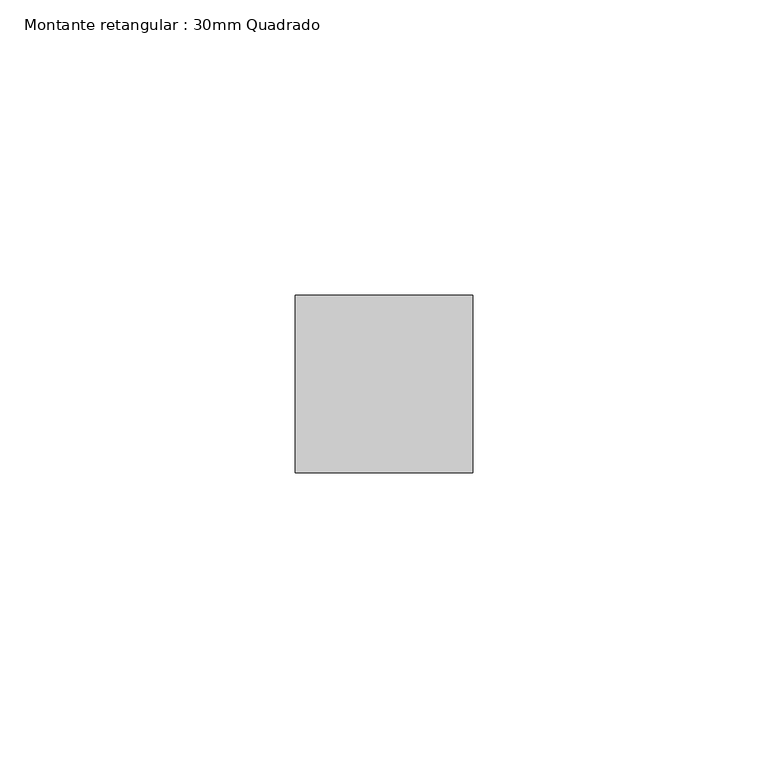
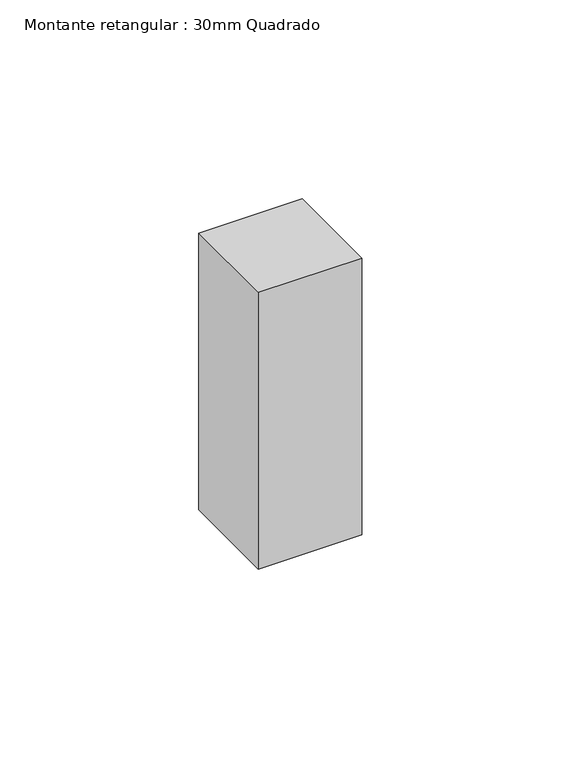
"""IFC4 building model written with IfcOpenShell, lengths in millimetres: member geometry, Montante retangular : 30mm Quadrado."""

import ifcopenshell
import ifcopenshell.guid

model = None  # the IFC model being written
_history = None  # IfcOwnerHistory: only IFC2X3 demands one
_inside = {}  # id of a spatial element -> (the spatial element, [elements in it])
_under = {}  # id of a project, library or spatial element -> (it, [spatial elements below it])
_declared = {}  # id of a project -> (the project, [libraries it declares])
_typed = {}  # id of a type object -> (the type object, [elements of that type])
_made_of = {}  # id of a material, layer set ... -> (it, [elements and type objects made of it])


def new_model(schema):
    """Start an empty IFC model of exactly this schema.

    Asked for "IFC4X3", IfcOpenShell would pick the latest addendum, in which some entities
    have other attributes; the version numbers below select the first issue.
    IFC2X3 requires an IfcOwnerHistory on every rooted entity: one is made here for all.
    """
    global model, _history
    if schema == "IFC4X3":
        model = ifcopenshell.file(schema_version=(4, 3, 0, 0))
    else:
        model = ifcopenshell.file(schema=schema)
    _inside.clear()
    _under.clear()
    _declared.clear()
    _typed.clear()
    _made_of.clear()
    _history = None
    if model.schema == "IFC2X3":
        org = make("IfcOrganization", Name="unknown")
        user = make(
            "IfcPersonAndOrganization",
            ThePerson=make("IfcPerson", FamilyName="unknown"),
            TheOrganization=org,
        )
        app = make(
            "IfcApplication",
            ApplicationDeveloper=org,
            Version="unknown",
            ApplicationFullName="unknown",
            ApplicationIdentifier="unknown",
        )
        _history = make(
            "IfcOwnerHistory",
            OwningUser=user,
            OwningApplication=app,
            ChangeAction="ADDED",
            CreationDate=0,
        )
    return model


def make(cls, **values):
    """One entity of the class cls with the attributes given. An attribute that is None is left unset."""
    return model.create_entity(
        cls, **{name: value for name, value in values.items() if value is not None}
    )


def rooted(cls, **values):
    """An entity with a GlobalId (a new one), such as an element, a storey or a relation."""
    return make(cls, GlobalId=ifcopenshell.guid.new(), OwnerHistory=_history, **values)


def si_unit(unit_type, name, prefix=None):
    """IfcSIUnit, for example si_unit("LENGTHUNIT", "METRE", prefix="MILLI")."""
    return make("IfcSIUnit", UnitType=unit_type, Prefix=prefix, Name=name)


def assignment(units):
    """IfcUnitAssignment: the units of a project."""
    return None if units is None else make("IfcUnitAssignment", Units=units)


def point(xyz):
    """IfcCartesianPoint."""
    return None if xyz is None else make("IfcCartesianPoint", Coordinates=xyz)


def direction(xyz):
    """IfcDirection."""
    return None if xyz is None else make("IfcDirection", DirectionRatios=xyz)


def frame(location, z_axis=None, x_axis=None):
    """IfcAxis2Placement3D, a coordinate frame: its origin and axes. An axis left out is left unset."""
    return make(
        "IfcAxis2Placement3D",
        Location=point(location),
        Axis=direction(z_axis),
        RefDirection=direction(x_axis),
    )


def origin():
    """The frame at (0, 0, 0) with its axes left unset."""
    return frame((0.0, 0.0, 0.0))


def place(relative_to, where):
    """IfcLocalPlacement: puts the frame where relative to a parent placement (None: the world)."""
    return make(
        "IfcLocalPlacement", PlacementRelTo=relative_to, RelativePlacement=where
    )


def context(
    kind, dimensions, precision=None, world=None, true_north=None, identifier=None
):
    """IfcGeometricRepresentationContext, for example the 3D "Model" context."""
    return make(
        "IfcGeometricRepresentationContext",
        ContextIdentifier=identifier,
        ContextType=kind,
        CoordinateSpaceDimension=dimensions,
        Precision=precision,
        WorldCoordinateSystem=world,
        TrueNorth=true_north,
    )


def project(units=None, contexts=None):
    """IfcProject with its units and contexts."""
    return rooted(
        "IfcProject",
        Name="project",
        RepresentationContexts=contexts,
        UnitsInContext=assignment(units),
    )


def spatial(cls, under=None, at=None, **own):
    """A site, building, storey or space (cls), placed at a placement, below another one or the project."""
    s = rooted(cls, ObjectPlacement=at, **own)
    if under is not None:
        _under.setdefault(under.id(), (under, []))[1].append(s)
    return s


def polyline(points):
    """IfcPolyline through the points."""
    return make("IfcPolyline", Points=[point(p) for p in points])


def outline(outer, holes=None, kind="AREA"):
    """IfcArbitraryClosedProfileDef: a profile drawn as a closed curve; with holes, ...WithVoids."""
    if holes is None:
        return make("IfcArbitraryClosedProfileDef", ProfileType=kind, OuterCurve=outer)
    return make(
        "IfcArbitraryProfileDefWithVoids",
        ProfileType=kind,
        OuterCurve=outer,
        InnerCurves=holes,
    )


def extrude(swept, where, along, depth):
    """IfcExtrudedAreaSolid: the profile swept, set in the frame where, extruded along a direction by depth."""
    return make(
        "IfcExtrudedAreaSolid",
        SweptArea=swept,
        Position=where,
        ExtrudedDirection=direction(along),
        Depth=depth,
    )


def shape(context_of_items, identifier, shape_type, items):
    """IfcShapeRepresentation: the items that make up one representation, for example the "Body"."""
    return make(
        "IfcShapeRepresentation",
        ContextOfItems=context_of_items,
        RepresentationIdentifier=identifier,
        RepresentationType=shape_type,
        Items=items,
    )


def source(mapping_origin, context_of_items, identifier, shape_type, items):
    """IfcRepresentationMap: a shape defined once, which mapped items show again and again."""
    return make(
        "IfcRepresentationMap",
        MappingOrigin=mapping_origin,
        MappedRepresentation=shape(context_of_items, identifier, shape_type, items),
    )


def transform(
    local_origin,
    x_axis=None,
    y_axis=None,
    z_axis=None,
    scale=None,
    scale2=None,
    scale3=None,
    uniform=True,
):
    """IfcCartesianTransformationOperator3D, or its non-uniform kind. x_axis, y_axis, z_axis: its Axis1, 2, 3."""
    if uniform:
        return make(
            "IfcCartesianTransformationOperator3D",
            Axis1=direction(x_axis),
            Axis2=direction(y_axis),
            LocalOrigin=point(local_origin),
            Scale=scale,
            Axis3=direction(z_axis),
        )
    return make(
        "IfcCartesianTransformationOperator3DnonUniform",
        Axis1=direction(x_axis),
        Axis2=direction(y_axis),
        LocalOrigin=point(local_origin),
        Scale=scale,
        Axis3=direction(z_axis),
        Scale2=scale2,
        Scale3=scale3,
    )


def mapped(mapping_source, mapping_target):
    """IfcMappedItem: shows the shape of a source again, moved by a transform."""
    return make(
        "IfcMappedItem", MappingSource=mapping_source, MappingTarget=mapping_target
    )


def made_of(thing, what):
    """Note that an element or type object is made of a material, layer set ...; save() writes the relation."""
    if what is not None:
        _made_of.setdefault(what.id(), (what, []))[1].append(thing)
    return thing


def element(
    cls,
    number,
    at=None,
    inside=None,
    cuts=None,
    type_object=None,
    material=None,
    context=None,
    identifier="Body",
    shape_type=None,
    held_by="IfcProductDefinitionShape",
    body=None,
    shapes=None,
    **own,
):
    """One element of the class cls, such as IfcWall. Its Tag is "e" and its number.

    at: its placement. inside: the storey or other place that contains it. cuts: it is an
    opening in that element (IfcRelVoidsElement). A single representation is given by context,
    identifier, shape_type and body (its items); several are given by shapes. held_by: the class
    of the entity that holds the representations. save() writes the other relations.
    """
    e = rooted(cls, Tag="e%d" % number, ObjectPlacement=at, **own)
    if body is not None:
        shapes = [shape(context, identifier, shape_type, body)]
    if shapes is not None:
        e.Representation = make(held_by, Representations=shapes)
    if inside is not None:
        _inside.setdefault(inside.id(), (inside, []))[1].append(e)
    if cuts is not None:
        rooted(
            "IfcRelVoidsElement", RelatingBuildingElement=cuts, RelatedOpeningElement=e
        )
    if type_object is not None:
        _typed.setdefault(type_object.id(), (type_object, []))[1].append(e)
    return made_of(e, material)


def aggregate(whole, parts):
    """IfcRelAggregates: a whole, such as a stair, and the parts it consists of."""
    return rooted("IfcRelAggregates", RelatingObject=whole, RelatedObjects=parts)


def save(model, path):
    """Write the relations noted so far, then the file.

    IfcRelAggregates (storeys below a building ...), IfcRelContainedInSpatialStructure (elements
    in a storey), IfcRelDefinesByType, IfcRelAssociatesMaterial and IfcRelDeclares: one each for
    every whole, place, type object, material and project.
    """
    for whole, parts in _under.values():
        aggregate(whole, parts)
    for where, things in _inside.values():
        rooted(
            "IfcRelContainedInSpatialStructure",
            RelatedElements=things,
            RelatingStructure=where,
        )
    for kind, things in _typed.values():
        rooted("IfcRelDefinesByType", RelatedObjects=things, RelatingType=kind)
    for what, things in _made_of.values():
        rooted("IfcRelAssociatesMaterial", RelatedObjects=things, RelatingMaterial=what)
    for by, libraries in _declared.values():
        rooted("IfcRelDeclares", RelatingContext=by, RelatedDefinitions=libraries)
    model.write(path)


def montante_retangular_30mm_quadrado_49b140b9(model_context):
    return source(origin(), model_context, "Body", "SweptSolid", [
        extrude(outline(polyline([(0.0, 15.0), (0.0, -15.0), (-30.0, -15.0), (-30.0, 15.0), (0.0, 15.0)])), frame((0.0, 0.0, -84.9999997), z_axis=(0.0, 0.0, 1.0), x_axis=(1.0, 0.0, 0.0)), (0.0, 0.0, 1.0), 84.9999997),
    ])


if __name__ == "__main__":
    model = new_model("IFC4")
    model_context = context("Model", 3, world=origin())
    ifc_project = project(units=[si_unit("LENGTHUNIT", "METRE", prefix="MILLI")], contexts=[model_context])
    site = spatial("IfcSite", under=ifc_project)
    building = spatial("IfcBuilding", under=site)
    placement = place(None, origin())
    montante_retangular_30mm_quadrado_shape = montante_retangular_30mm_quadrado_49b140b9(model_context)
    element("IfcMember", 1, ObjectType="Montante retangular : 30mm Quadrado", at=placement, inside=building, context=model_context, shape_type="MappedRepresentation", body=[
        mapped(montante_retangular_30mm_quadrado_shape, transform((0.0, 0.0, 0.0), x_axis=(1.0, 0.0, 0.0), y_axis=(0.0, 1.0, 0.0), z_axis=(0.0, 0.0, 1.0))),
    ])
    save(model, "model.ifc")
